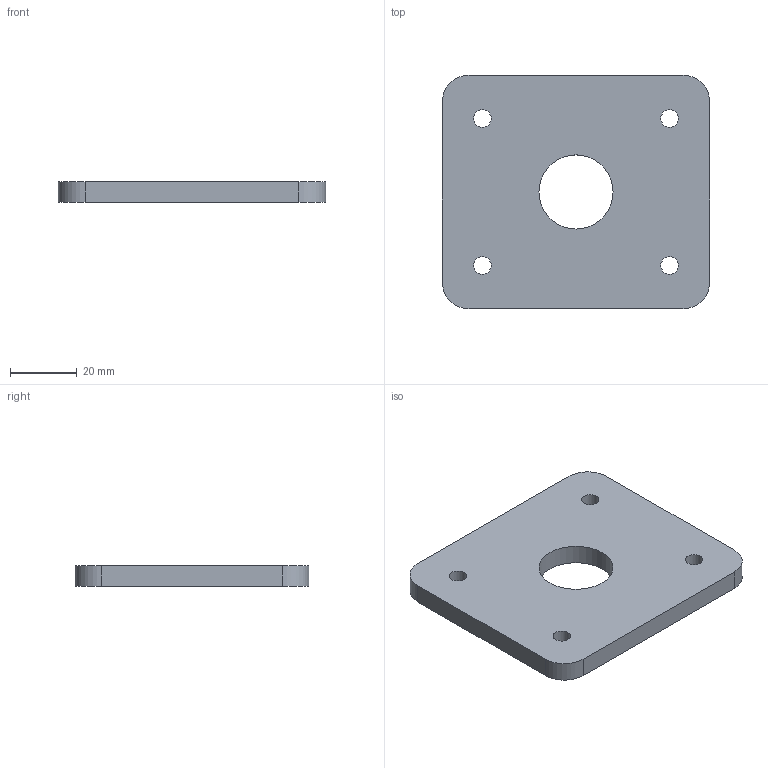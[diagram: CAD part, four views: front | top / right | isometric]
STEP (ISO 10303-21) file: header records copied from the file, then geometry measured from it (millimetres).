
FILE_DESCRIPTION(('Open CASCADE Model'),'2;1');
FILE_NAME('Open CASCADE Shape Model','2026-09-16T16:54:27',('Author'),( 'Open CASCADE'),'Open CASCADE STEP processor 7.8','Open CASCADE 7.8' ,'Unknown');
FILE_SCHEMA(('AUTOMOTIVE_DESIGN { 1 0 10303 214 1 1 1 1 }'));
Length unit declared in the file: millimetre
Products named in the file (1): Open CASCADE STEP translator 7.8 10
Bounding box: 80 x 70 x 6 mm (x, y, z)
Volume: 30438.2 mm3; surface area: 12674.2 mm2
Topology: 1 solids, 1 shells, 15 faces, 39 edges, 26 vertices
Faces by surface type: cylinder 9, plane 6
Full cylindrical faces by diameter (mm): 5.2 x4, 22.2 x1
Entity records: 1050 total; most frequent: CARTESIAN_POINT 243, DIRECTION 153, LINE 81, VECTOR 81, ORIENTED_EDGE 78, PCURVE 78, DEFINITIONAL_REPRESENTATION 78, EDGE_CURVE 39
